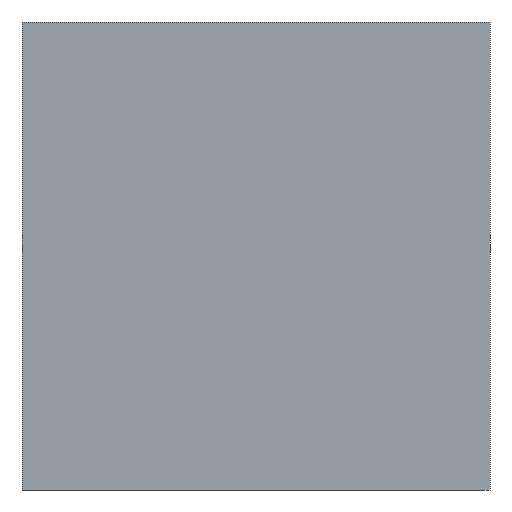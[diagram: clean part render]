
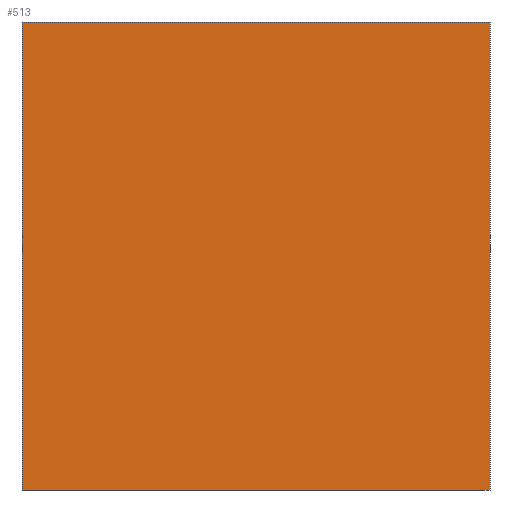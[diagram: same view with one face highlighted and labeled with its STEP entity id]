
A CAD part, left-side view. The second image highlights one B-rep face of the part: STEP entity #513.
In plain terms, the highlighted planar face has unit normal (-1, 0, 0).
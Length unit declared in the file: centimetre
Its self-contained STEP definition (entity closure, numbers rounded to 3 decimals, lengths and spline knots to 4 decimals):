
#28 = VERTEX_POINT ( 'NONE', #548 ) ;
#33 = VERTEX_POINT ( 'NONE', #274 ) ;
#35 = ORIENTED_EDGE ( 'NONE', *, *, #452, .F. ) ;
#50 = PLANE ( 'NONE',  #698 ) ;
#115 = CARTESIAN_POINT ( 'NONE',  ( 0., 1000., 1000. ) ) ;
#167 = ORIENTED_EDGE ( 'NONE', *, *, #520, .T. ) ;
#176 = DIRECTION ( 'NONE',  ( 0., 0., -1. ) ) ;
#205 = VECTOR ( 'NONE', #176, 100. ) ;
#248 = EDGE_CURVE ( 'NONE', #28, #840, #508, .T. ) ;
#253 = VECTOR ( 'NONE', #863, 100. ) ;
#256 = CARTESIAN_POINT ( 'NONE',  ( 0., 1000., 0. ) ) ;
#274 = CARTESIAN_POINT ( 'NONE',  ( 0., 1000., 0. ) ) ;
#313 = VECTOR ( 'NONE', #800, 100. ) ;
#316 = LINE ( 'NONE', #517, #253 ) ;
#324 = LINE ( 'NONE', #256, #313 ) ;
#377 = FACE_OUTER_BOUND ( 'NONE', #577, .T. ) ;
#390 = VERTEX_POINT ( 'NONE', #115 ) ;
#429 = ORIENTED_EDGE ( 'NONE', *, *, #878, .T. ) ;
#452 = EDGE_CURVE ( 'NONE', #390, #28, #595, .T. ) ;
#508 = LINE ( 'NONE', #792, #205 ) ;
#513 = ADVANCED_FACE ( 'NONE', ( #377 ), #50, .F. ) ;
#517 = CARTESIAN_POINT ( 'NONE',  ( 0., 1000., 1000. ) ) ;
#520 = EDGE_CURVE ( 'NONE', #33, #840, #324, .T. ) ;
#529 = DIRECTION ( 'NONE',  ( 0., 0., -1. ) ) ;
#543 = VECTOR ( 'NONE', #747, 100. ) ;
#548 = CARTESIAN_POINT ( 'NONE',  ( 0., 0., 1000. ) ) ;
#577 = EDGE_LOOP ( 'NONE', ( #167, #702, #35, #429 ) ) ;
#590 = CARTESIAN_POINT ( 'NONE',  ( 0., 0., 0. ) ) ;
#595 = LINE ( 'NONE', #871, #543 ) ;
#609 = CARTESIAN_POINT ( 'NONE',  ( 0., 1000., 1000. ) ) ;
#698 = AXIS2_PLACEMENT_3D ( 'NONE', #609, #866, #529 ) ;
#702 = ORIENTED_EDGE ( 'NONE', *, *, #248, .F. ) ;
#747 = DIRECTION ( 'NONE',  ( 0., -1., 0. ) ) ;
#792 = CARTESIAN_POINT ( 'NONE',  ( 0., 0., 1000. ) ) ;
#800 = DIRECTION ( 'NONE',  ( 0., -1., 0. ) ) ;
#840 = VERTEX_POINT ( 'NONE', #590 ) ;
#863 = DIRECTION ( 'NONE',  ( 0., 0., -1. ) ) ;
#866 = DIRECTION ( 'NONE',  ( 1., 0., 0. ) ) ;
#871 = CARTESIAN_POINT ( 'NONE',  ( 0., 1000., 1000. ) ) ;
#878 = EDGE_CURVE ( 'NONE', #390, #33, #316, .T. ) ;
